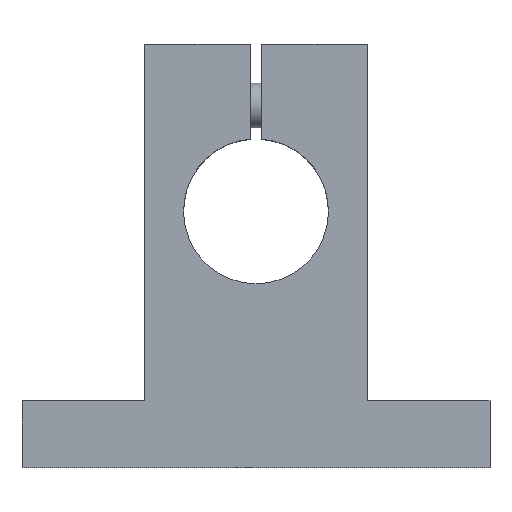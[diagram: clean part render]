
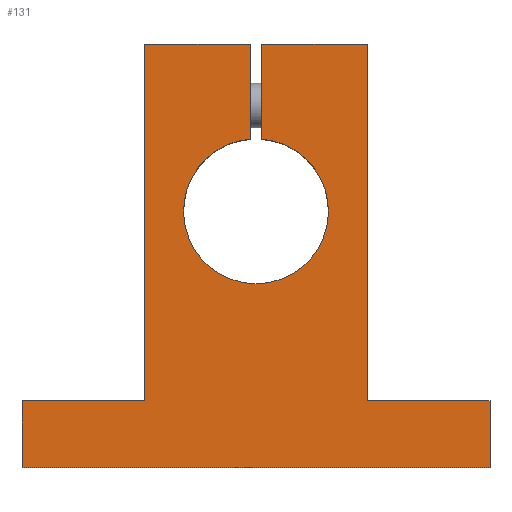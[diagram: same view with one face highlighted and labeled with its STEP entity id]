
A CAD part, top view. The second image highlights one B-rep face of the part: STEP entity #131.
In plain terms, the highlighted planar face has unit normal (0, 0, 1).
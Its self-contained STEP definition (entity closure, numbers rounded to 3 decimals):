
#131=ADVANCED_FACE('',(#182),#183,.F.);
#182=FACE_OUTER_BOUND('',#270,.T.);
#183=PLANE('',#271);
#270=EDGE_LOOP('',(#389,#390,#391,#392,#393,#394,#395,#396,#397,#398,#399,#400));
#271=AXIS2_PLACEMENT_3D('',#401,#402,#403);
#389=ORIENTED_EDGE('',*,*,#602,.F.);
#390=ORIENTED_EDGE('',*,*,#598,.T.);
#391=ORIENTED_EDGE('',*,*,#603,.T.);
#392=ORIENTED_EDGE('',*,*,#604,.T.);
#393=ORIENTED_EDGE('',*,*,#587,.T.);
#394=ORIENTED_EDGE('',*,*,#578,.T.);
#395=ORIENTED_EDGE('',*,*,#584,.T.);
#396=ORIENTED_EDGE('',*,*,#605,.T.);
#397=ORIENTED_EDGE('',*,*,#606,.T.);
#398=ORIENTED_EDGE('',*,*,#607,.T.);
#399=ORIENTED_EDGE('',*,*,#608,.T.);
#400=ORIENTED_EDGE('',*,*,#591,.T.);
#401=CARTESIAN_POINT('',(0.,23.0,14.0));
#402=DIRECTION('',(0.0,0.0,-1.0));
#403=DIRECTION('',(0.083,0.997,0.0));
#578=EDGE_CURVE('',#651,#649,#652,.T.);
#584=EDGE_CURVE('',#649,#660,#662,.T.);
#587=EDGE_CURVE('',#667,#651,#668,.T.);
#591=EDGE_CURVE('',#675,#672,#676,.T.);
#598=EDGE_CURVE('',#683,#687,#689,.T.);
#602=EDGE_CURVE('',#683,#672,#696,.F.);
#603=EDGE_CURVE('',#687,#697,#698,.T.);
#604=EDGE_CURVE('',#697,#667,#699,.T.);
#605=EDGE_CURVE('',#660,#700,#701,.T.);
#606=EDGE_CURVE('',#700,#702,#703,.T.);
#607=EDGE_CURVE('',#702,#704,#705,.T.);
#608=EDGE_CURVE('',#704,#675,#706,.T.);
#649=VERTEX_POINT('',#772);
#651=VERTEX_POINT('',#775);
#652=LINE('',#776,#777);
#660=VERTEX_POINT('',#787);
#662=LINE('',#790,#791);
#667=VERTEX_POINT('',#797);
#668=LINE('',#798,#799);
#672=VERTEX_POINT('',#804);
#675=VERTEX_POINT('',#808);
#676=LINE('',#809,#810);
#683=VERTEX_POINT('',#819);
#687=VERTEX_POINT('',#825);
#689=LINE('',#828,#829);
#696=CIRCLE('',#836,6.5);
#697=VERTEX_POINT('',#837);
#698=LINE('',#838,#839);
#699=LINE('',#840,#841);
#700=VERTEX_POINT('',#842);
#701=LINE('',#843,#844);
#702=VERTEX_POINT('',#845);
#703=LINE('',#846,#847);
#704=VERTEX_POINT('',#848);
#705=LINE('',#849,#850);
#706=LINE('',#851,#852);
#772=CARTESIAN_POINT('',(-21.0,0.,14.0));
#775=CARTESIAN_POINT('',(-21.0,6.0,14.0));
#776=CARTESIAN_POINT('',(-21.0,6.0,14.0));
#777=VECTOR('',#977,1.0);
#787=CARTESIAN_POINT('',(21.0,0.,14.0));
#790=CARTESIAN_POINT('',(-21.0,0.,14.0));
#791=VECTOR('',#987,1.0);
#797=CARTESIAN_POINT('',(-10.0,6.0,14.0));
#798=CARTESIAN_POINT('',(-10.0,6.0,14.0));
#799=VECTOR('',#992,1.0);
#804=CARTESIAN_POINT('',(0.5,29.481,14.0));
#808=CARTESIAN_POINT('',(0.5,38.0,14.0));
#809=CARTESIAN_POINT('',(0.5,38.0,14.0));
#810=VECTOR('',#998,1.0);
#819=CARTESIAN_POINT('',(-0.5,29.481,14.0));
#825=CARTESIAN_POINT('',(-0.5,38.0,14.0));
#828=CARTESIAN_POINT('',(-0.5,28.979,14.0));
#829=VECTOR('',#1007,1.0);
#836=AXIS2_PLACEMENT_3D('',#1017,#1018,#1019);
#837=CARTESIAN_POINT('',(-10.0,38.0,14.0));
#838=CARTESIAN_POINT('',(-0.5,38.0,14.0));
#839=VECTOR('',#1020,1.0);
#840=CARTESIAN_POINT('',(-10.0,38.0,14.0));
#841=VECTOR('',#1021,1.0);
#842=CARTESIAN_POINT('',(21.0,6.0,14.0));
#843=CARTESIAN_POINT('',(21.0,0.,14.0));
#844=VECTOR('',#1022,1.0);
#845=CARTESIAN_POINT('',(10.0,6.0,14.0));
#846=CARTESIAN_POINT('',(21.0,6.0,14.0));
#847=VECTOR('',#1023,1.0);
#848=CARTESIAN_POINT('',(10.0,38.0,14.0));
#849=CARTESIAN_POINT('',(10.0,6.0,14.0));
#850=VECTOR('',#1024,1.0);
#851=CARTESIAN_POINT('',(10.0,38.0,14.0));
#852=VECTOR('',#1025,1.0);
#977=DIRECTION('',(0.,-1.0,0.0));
#987=DIRECTION('',(1.0,0.0,0.0));
#992=DIRECTION('',(-1.0,0.0,0.0));
#998=DIRECTION('',(0.,-1.0,0.0));
#1007=DIRECTION('',(0.,1.0,0.0));
#1017=CARTESIAN_POINT('',(0.,23.0,14.0));
#1018=DIRECTION('',(0.0,0.0,-1.0));
#1019=DIRECTION('',(-1.0,0.0,0.0));
#1020=DIRECTION('',(-1.0,0.0,0.0));
#1021=DIRECTION('',(0.,-1.0,0.0));
#1022=DIRECTION('',(0.,1.0,0.0));
#1023=DIRECTION('',(-1.0,0.0,0.0));
#1024=DIRECTION('',(0.,1.0,0.0));
#1025=DIRECTION('',(-1.0,0.0,0.0));
